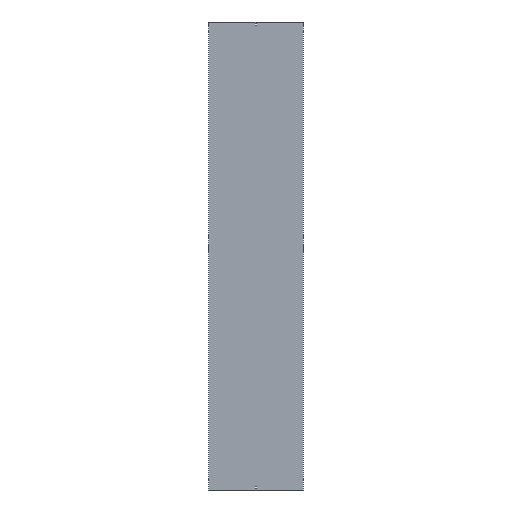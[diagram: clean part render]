
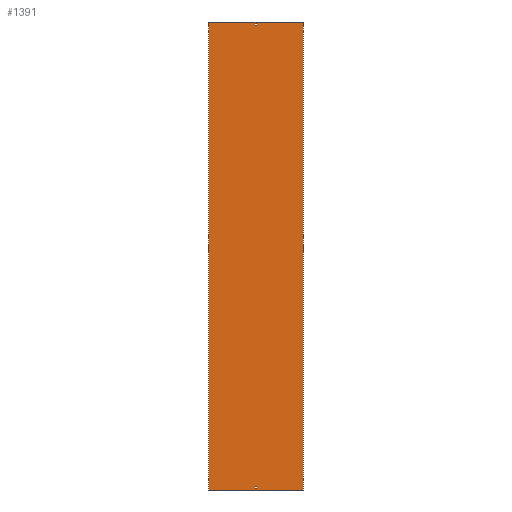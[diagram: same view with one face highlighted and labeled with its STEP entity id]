
A CAD part, front view. The second image highlights one B-rep face of the part: STEP entity #1391.
In plain terms, the highlighted planar face has unit normal (0, -1, 0).
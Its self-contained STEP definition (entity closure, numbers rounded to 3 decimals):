
#25 = DIRECTION ( 'NONE',  ( 0., 0., -1. ) ) ;
#53 = CARTESIAN_POINT ( 'NONE',  ( -302., 0., 1500. ) ) ;
#116 = EDGE_CURVE ( 'NONE', #1728, #2749, #125, .T. ) ;
#125 = LINE ( 'NONE', #1209, #2505 ) ;
#144 = CARTESIAN_POINT ( 'NONE',  ( -302., 0., -1500. ) ) ;
#183 = ORIENTED_EDGE ( 'NONE', *, *, #707, .F. ) ;
#194 = ORIENTED_EDGE ( 'NONE', *, *, #2457, .T. ) ;
#243 = CARTESIAN_POINT ( 'NONE',  ( -302., 0., 1500. ) ) ;
#267 = FACE_OUTER_BOUND ( 'NONE', #1173, .T. ) ;
#300 = EDGE_LOOP ( 'NONE', ( #1677, #1978, #2462, #194 ) ) ;
#339 = CARTESIAN_POINT ( 'NONE',  ( 302., 0., -1500. ) ) ;
#416 = VECTOR ( 'NONE', #1543, 1000. ) ;
#419 = VECTOR ( 'NONE', #2425, 1000. ) ;
#463 = DIRECTION ( 'NONE',  ( -1., 0., 0. ) ) ;
#466 = VECTOR ( 'NONE', #1464, 1000. ) ;
#484 = CARTESIAN_POINT ( 'NONE',  ( -3.25, 0., 1488. ) ) ;
#496 = CARTESIAN_POINT ( 'NONE',  ( -3.25, 0., -1488. ) ) ;
#500 = CARTESIAN_POINT ( 'NONE',  ( -3.25, 0., 1479. ) ) ;
#554 = CARTESIAN_POINT ( 'NONE',  ( -302., 0., 1500. ) ) ;
#619 = CARTESIAN_POINT ( 'NONE',  ( -3.25, 0., -1488. ) ) ;
#671 = CARTESIAN_POINT ( 'NONE',  ( -3.25, 0., -1479. ) ) ;
#707 = EDGE_CURVE ( 'NONE', #2605, #1728, #2449, .T. ) ;
#714 = LINE ( 'NONE', #1567, #419 ) ;
#732 = DIRECTION ( 'NONE',  ( 1., 0., 0. ) ) ;
#855 = VERTEX_POINT ( 'NONE', #1854 ) ;
#870 = ORIENTED_EDGE ( 'NONE', *, *, #1004, .F. ) ;
#873 = FACE_BOUND ( 'NONE', #1949, .T. ) ;
#897 = DIRECTION ( 'NONE',  ( 0., 0., 1. ) ) ;
#919 = CARTESIAN_POINT ( 'NONE',  ( 3.25, 0., 1488. ) ) ;
#969 = DIRECTION ( 'NONE',  ( -1., 0., 0. ) ) ;
#974 = ORIENTED_EDGE ( 'NONE', *, *, #1349, .F. ) ;
#985 = EDGE_CURVE ( 'NONE', #1259, #1002, #2154, .T. ) ;
#1002 = VERTEX_POINT ( 'NONE', #1063 ) ;
#1004 = EDGE_CURVE ( 'NONE', #2031, #1147, #1298, .T. ) ;
#1006 = CARTESIAN_POINT ( 'NONE',  ( -3.25, 0., -1479. ) ) ;
#1007 = LINE ( 'NONE', #144, #1036 ) ;
#1036 = VECTOR ( 'NONE', #2066, 1000. ) ;
#1063 = CARTESIAN_POINT ( 'NONE',  ( 3.25, 0., -1479. ) ) ;
#1078 = LINE ( 'NONE', #1930, #1482 ) ;
#1100 = CARTESIAN_POINT ( 'NONE',  ( 302., 0., 1500. ) ) ;
#1127 = PLANE ( 'NONE',  #1788 ) ;
#1135 = ORIENTED_EDGE ( 'NONE', *, *, #116, .F. ) ;
#1147 = VERTEX_POINT ( 'NONE', #339 ) ;
#1173 = EDGE_LOOP ( 'NONE', ( #1732, #870, #1602, #1837 ) ) ;
#1209 = CARTESIAN_POINT ( 'NONE',  ( -3.25, 0., 1488. ) ) ;
#1259 = VERTEX_POINT ( 'NONE', #1006 ) ;
#1266 = VECTOR ( 'NONE', #897, 1000. ) ;
#1298 = LINE ( 'NONE', #1100, #2690 ) ;
#1349 = EDGE_CURVE ( 'NONE', #855, #2605, #2638, .T. ) ;
#1359 = FACE_BOUND ( 'NONE', #300, .T. ) ;
#1391 = ADVANCED_FACE ( 'NONE', ( #267, #873, #1359 ), #1127, .F. ) ;
#1408 = LINE ( 'NONE', #2033, #2741 ) ;
#1444 = EDGE_CURVE ( 'NONE', #2762, #2031, #2678, .T. ) ;
#1464 = DIRECTION ( 'NONE',  ( -1., 0., 0. ) ) ;
#1482 = VECTOR ( 'NONE', #25, 1000. ) ;
#1522 = DIRECTION ( 'NONE',  ( 0., 0., -1. ) ) ;
#1543 = DIRECTION ( 'NONE',  ( 1., 0., 0. ) ) ;
#1567 = CARTESIAN_POINT ( 'NONE',  ( 3.25, 0., -1488. ) ) ;
#1602 = ORIENTED_EDGE ( 'NONE', *, *, #1444, .F. ) ;
#1677 = ORIENTED_EDGE ( 'NONE', *, *, #2733, .T. ) ;
#1713 = VERTEX_POINT ( 'NONE', #496 ) ;
#1728 = VERTEX_POINT ( 'NONE', #1734 ) ;
#1732 = ORIENTED_EDGE ( 'NONE', *, *, #2351, .T. ) ;
#1734 = CARTESIAN_POINT ( 'NONE',  ( 3.25, 0., 1488. ) ) ;
#1777 = VERTEX_POINT ( 'NONE', #2169 ) ;
#1788 = AXIS2_PLACEMENT_3D ( 'NONE', #243, #2600, #463 ) ;
#1837 = ORIENTED_EDGE ( 'NONE', *, *, #2195, .T. ) ;
#1854 = CARTESIAN_POINT ( 'NONE',  ( -3.25, 0., 1479. ) ) ;
#1893 = ORIENTED_EDGE ( 'NONE', *, *, #2281, .F. ) ;
#1923 = EDGE_CURVE ( 'NONE', #1002, #1777, #714, .T. ) ;
#1930 = CARTESIAN_POINT ( 'NONE',  ( -302., 0., 1500. ) ) ;
#1949 = EDGE_LOOP ( 'NONE', ( #974, #1893, #1135, #183 ) ) ;
#1978 = ORIENTED_EDGE ( 'NONE', *, *, #985, .T. ) ;
#2022 = DIRECTION ( 'NONE',  ( 0., 0., -1. ) ) ;
#2031 = VERTEX_POINT ( 'NONE', #2069 ) ;
#2033 = CARTESIAN_POINT ( 'NONE',  ( -3.25, 0., 1488. ) ) ;
#2051 = VECTOR ( 'NONE', #2570, 1000. ) ;
#2066 = DIRECTION ( 'NONE',  ( 1., 0., 0. ) ) ;
#2069 = CARTESIAN_POINT ( 'NONE',  ( 302., 0., 1500. ) ) ;
#2073 = CARTESIAN_POINT ( 'NONE',  ( 3.25, 0., 1479. ) ) ;
#2154 = LINE ( 'NONE', #671, #2051 ) ;
#2169 = CARTESIAN_POINT ( 'NONE',  ( 3.25, 0., -1488. ) ) ;
#2183 = LINE ( 'NONE', #2368, #1266 ) ;
#2195 = EDGE_CURVE ( 'NONE', #2762, #2346, #1078, .T. ) ;
#2218 = DIRECTION ( 'NONE',  ( 0., 0., 1. ) ) ;
#2281 = EDGE_CURVE ( 'NONE', #2749, #855, #1408, .T. ) ;
#2346 = VERTEX_POINT ( 'NONE', #2717 ) ;
#2351 = EDGE_CURVE ( 'NONE', #2346, #1147, #1007, .T. ) ;
#2368 = CARTESIAN_POINT ( 'NONE',  ( -3.25, 0., -1488. ) ) ;
#2425 = DIRECTION ( 'NONE',  ( 0., 0., -1. ) ) ;
#2449 = LINE ( 'NONE', #919, #2507 ) ;
#2457 = EDGE_CURVE ( 'NONE', #1777, #1713, #2536, .T. ) ;
#2462 = ORIENTED_EDGE ( 'NONE', *, *, #1923, .T. ) ;
#2505 = VECTOR ( 'NONE', #969, 1000. ) ;
#2507 = VECTOR ( 'NONE', #2218, 1000. ) ;
#2536 = LINE ( 'NONE', #619, #466 ) ;
#2570 = DIRECTION ( 'NONE',  ( 1., 0., 0. ) ) ;
#2600 = DIRECTION ( 'NONE',  ( 0., 1., 0. ) ) ;
#2605 = VERTEX_POINT ( 'NONE', #2073 ) ;
#2638 = LINE ( 'NONE', #500, #416 ) ;
#2678 = LINE ( 'NONE', #554, #2692 ) ;
#2690 = VECTOR ( 'NONE', #1522, 1000. ) ;
#2692 = VECTOR ( 'NONE', #732, 1000. ) ;
#2717 = CARTESIAN_POINT ( 'NONE',  ( -302., 0., -1500. ) ) ;
#2733 = EDGE_CURVE ( 'NONE', #1713, #1259, #2183, .T. ) ;
#2741 = VECTOR ( 'NONE', #2022, 1000. ) ;
#2749 = VERTEX_POINT ( 'NONE', #484 ) ;
#2762 = VERTEX_POINT ( 'NONE', #53 ) ;
